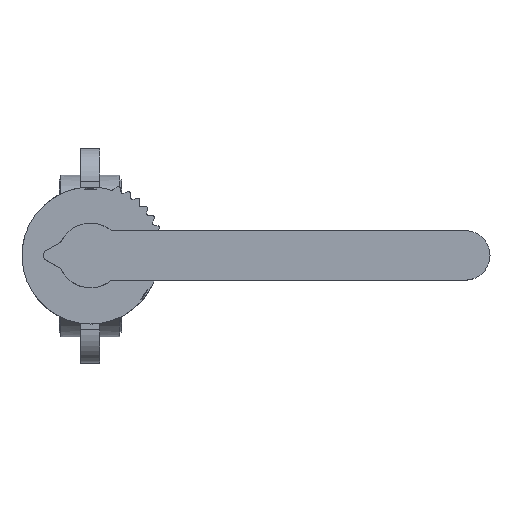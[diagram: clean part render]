
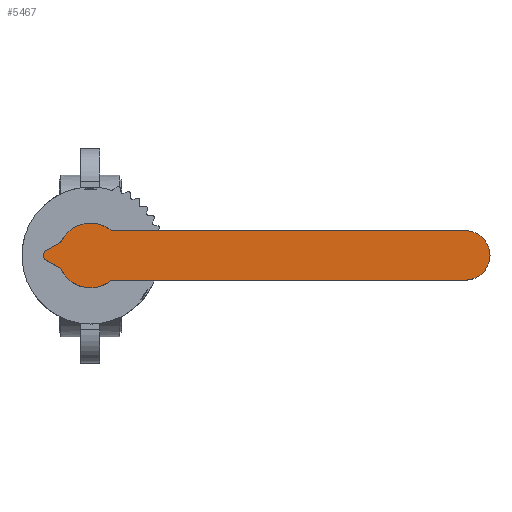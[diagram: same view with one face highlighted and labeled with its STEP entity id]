
A CAD part, top view. The second image highlights one B-rep face of the part: STEP entity #5467.
In plain terms, the highlighted planar face has unit normal (0, 0, 1).
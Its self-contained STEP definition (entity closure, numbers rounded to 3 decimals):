
#5467=ADVANCED_FACE('',(#10705),#10707,.T.);
#10705=FACE_BOUND('',#10706,.T.);
#10706=EDGE_LOOP('',(#14897,#14898,#14899,#14900,#14901,#14902,#14903,#14904,#14905,
#14906,#14907));
#10707=PLANE('',#10708);
#10708=AXIS2_PLACEMENT_3D('',#10709,#10710,#10711);
#10709=CARTESIAN_POINT('',(-1.545,-4.755,175.));
#10710=DIRECTION('',(0.,0.,1.));
#10711=DIRECTION('',(0.951,-0.309,0.));
#14897=ORIENTED_EDGE('',*,*,#17228,.T.);
#14898=ORIENTED_EDGE('',*,*,#17245,.T.);
#14899=ORIENTED_EDGE('',*,*,#17243,.T.);
#14900=ORIENTED_EDGE('',*,*,#17246,.T.);
#14901=ORIENTED_EDGE('',*,*,#17247,.T.);
#14902=ORIENTED_EDGE('',*,*,#17248,.T.);
#14903=ORIENTED_EDGE('',*,*,#17249,.T.);
#14904=ORIENTED_EDGE('',*,*,#17250,.T.);
#14905=ORIENTED_EDGE('',*,*,#17251,.T.);
#14906=ORIENTED_EDGE('',*,*,#17252,.T.);
#14907=ORIENTED_EDGE('',*,*,#17253,.T.);
#17228=EDGE_CURVE('',#20401,#20429,#20431,.T.);
#17243=EDGE_CURVE('',#20461,#20459,#20462,.T.);
#17245=EDGE_CURVE('',#20429,#20461,#20464,.T.);
#17246=EDGE_CURVE('',#20459,#20465,#20466,.T.);
#17247=EDGE_CURVE('',#20465,#20467,#20468,.T.);
#17248=EDGE_CURVE('',#20467,#20469,#20470,.T.);
#17249=EDGE_CURVE('',#20469,#20471,#20472,.T.);
#17250=EDGE_CURVE('',#20471,#20473,#20474,.T.);
#17251=EDGE_CURVE('',#20473,#20475,#20476,.T.);
#17252=EDGE_CURVE('',#20475,#20477,#20478,.T.);
#17253=EDGE_CURVE('',#20477,#20401,#20479,.T.);
#20401=VERTEX_POINT('',#28746);
#20429=VERTEX_POINT('',#28802);
#20431=LINE('',#28806,#28807);
#20459=VERTEX_POINT('',#28862);
#20461=VERTEX_POINT('',#28866);
#20462=LINE('',#28867,#28868);
#20464=CIRCLE('',#28873,13.);
#20465=VERTEX_POINT('',#28877);
#20466=CIRCLE('',#28878,17.);
#20467=VERTEX_POINT('',#28882);
#20468=CIRCLE('',#28883,17.);
#20469=VERTEX_POINT('',#28887);
#20470=CIRCLE('',#28888,3.);
#20471=VERTEX_POINT('',#28892);
#20472=LINE('',#28893,#28894);
#20473=VERTEX_POINT('',#28896);
#20474=CIRCLE('',#28897,3.);
#20475=VERTEX_POINT('',#28901);
#20476=LINE('',#28902,#28903);
#20477=VERTEX_POINT('',#28905);
#20478=CIRCLE('',#28906,3.);
#20479=CIRCLE('',#28910,17.);
#28746=CARTESIAN_POINT('',(10.954,-13.,175.));
#28802=CARTESIAN_POINT('',(197.,-13.,175.));
#28806=CARTESIAN_POINT('',(10.954,-13.,175.));
#28807=VECTOR('',#28808,1.);
#28808=DIRECTION('',(1.,0.,0.));
#28862=CARTESIAN_POINT('',(10.954,13.,175.));
#28866=CARTESIAN_POINT('',(197.,13.,175.));
#28867=CARTESIAN_POINT('',(197.,13.,175.));
#28868=VECTOR('',#28869,1.);
#28869=DIRECTION('',(-1.,0.,0.));
#28873=AXIS2_PLACEMENT_3D('',#28874,#28875,#28876);
#28874=CARTESIAN_POINT('',(197.,0.,175.));
#28875=DIRECTION('',(0.,0.,1.));
#28876=DIRECTION('',(0.,-1.,0.));
#28877=CARTESIAN_POINT('',(2.659,16.791,175.));
#28878=AXIS2_PLACEMENT_3D('',#28879,#28880,#28881);
#28879=CARTESIAN_POINT('',(0.,0.,175.));
#28880=DIRECTION('',(0.,0.,1.));
#28881=DIRECTION('',(0.644,0.765,0.));
#28882=CARTESIAN_POINT('',(-15.113,7.785,175.));
#28883=AXIS2_PLACEMENT_3D('',#28884,#28885,#28886);
#28884=CARTESIAN_POINT('',(0.,0.,175.));
#28885=DIRECTION('',(0.,0.,1.));
#28886=DIRECTION('',(0.156,0.988,0.));
#28887=CARTESIAN_POINT('',(-16.317,6.539,175.));
#28888=AXIS2_PLACEMENT_3D('',#28889,#28890,#28891);
#28889=CARTESIAN_POINT('',(-17.78,9.159,175.));
#28890=DIRECTION('',(0.,0.,-1.));
#28891=DIRECTION('',(0.889,-0.458,0.));
#28892=CARTESIAN_POINT('',(-23.338,2.619,175.));
#28893=CARTESIAN_POINT('',(-16.317,6.539,175.));
#28894=VECTOR('',#28895,1.);
#28895=DIRECTION('',(-0.873,-0.487,0.));
#28896=CARTESIAN_POINT('',(-23.338,-2.619,175.));
#28897=AXIS2_PLACEMENT_3D('',#28898,#28899,#28900);
#28898=CARTESIAN_POINT('',(-21.876,0.,175.));
#28899=DIRECTION('',(0.,0.,1.));
#28900=DIRECTION('',(-0.487,0.873,0.));
#28901=CARTESIAN_POINT('',(-16.317,-6.539,175.));
#28902=CARTESIAN_POINT('',(-23.338,-2.619,175.));
#28903=VECTOR('',#28904,1.);
#28904=DIRECTION('',(0.873,-0.487,0.));
#28905=CARTESIAN_POINT('',(-15.113,-7.785,175.));
#28906=AXIS2_PLACEMENT_3D('',#28907,#28908,#28909);
#28907=CARTESIAN_POINT('',(-17.78,-9.159,175.));
#28908=DIRECTION('',(0.,0.,-1.));
#28909=DIRECTION('',(0.487,0.873,0.));
#28910=AXIS2_PLACEMENT_3D('',#28911,#28912,#28913);
#28911=CARTESIAN_POINT('',(0.,0.,175.));
#28912=DIRECTION('',(0.,0.,1.));
#28913=DIRECTION('',(-0.889,-0.458,0.));
